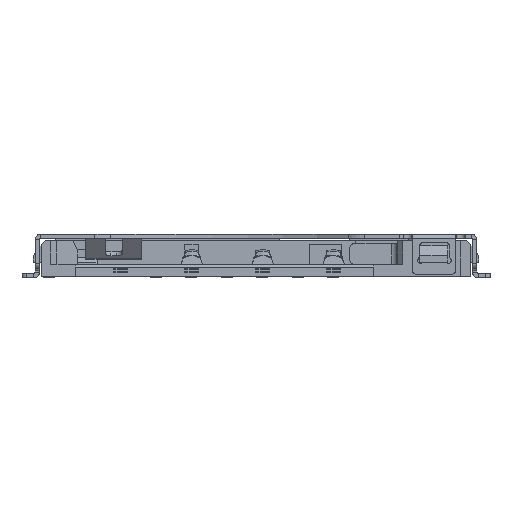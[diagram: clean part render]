
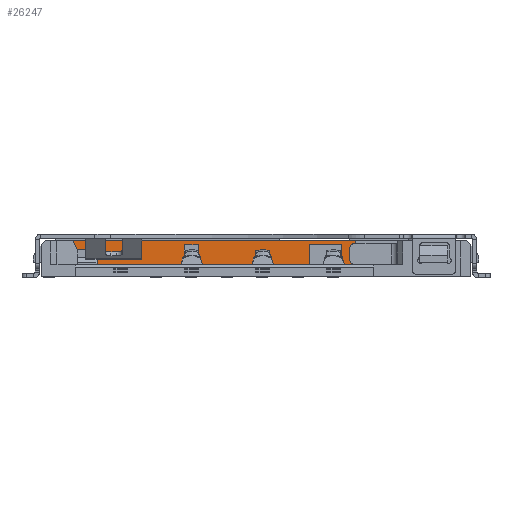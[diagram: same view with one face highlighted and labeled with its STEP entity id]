
A CAD part, front view. The second image highlights one B-rep face of the part: STEP entity #26247.
In plain terms, the highlighted planar face has unit normal (0, -1, 0) as drawn and (0, 0, 1) by its records, which use the part's own axes.
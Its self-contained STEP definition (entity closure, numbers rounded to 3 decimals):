
#23068 = VERTEX_POINT('',#23069);
#23069 = CARTESIAN_POINT('',(1.765,0.3,-7.16));
#23075 = EDGE_CURVE('',#23076,#23068,#23078,.T.);
#23076 = VERTEX_POINT('',#23077);
#23077 = CARTESIAN_POINT('',(-2.22,0.3,-7.16));
#23078 = LINE('',#23079,#23080);
#23079 = CARTESIAN_POINT('',(-2.22,0.3,-7.16));
#23080 = VECTOR('',#23081,1.);
#23081 = DIRECTION('',(1.,0.,0.));
#23100 = VERTEX_POINT('',#23101);
#23101 = CARTESIAN_POINT('',(-2.72,0.3,-7.16));
#23107 = EDGE_CURVE('',#23108,#23100,#23110,.T.);
#23108 = VERTEX_POINT('',#23109);
#23109 = CARTESIAN_POINT('',(-6.55,0.3,-7.16));
#23110 = LINE('',#23111,#23112);
#23111 = CARTESIAN_POINT('',(-6.55,0.3,-7.16));
#23112 = VECTOR('',#23113,1.);
#23113 = DIRECTION('',(1.,0.,0.));
#24307 = VERTEX_POINT('',#24308);
#24308 = CARTESIAN_POINT('',(-6.724,1.15,-7.16));
#24314 = EDGE_CURVE('',#24307,#24315,#24317,.T.);
#24315 = VERTEX_POINT('',#24316);
#24316 = CARTESIAN_POINT('',(3.4,1.15,-7.16));
#24317 = LINE('',#24318,#24319);
#24318 = CARTESIAN_POINT('',(-6.724,1.15,-7.16));
#24319 = VECTOR('',#24320,1.);
#24320 = DIRECTION('',(1.,0.,0.));
#25840 = VERTEX_POINT('',#25841);
#25841 = CARTESIAN_POINT('',(3.4,0.25,-7.16));
#25847 = EDGE_CURVE('',#25840,#25848,#25850,.T.);
#25848 = VERTEX_POINT('',#25849);
#25849 = CARTESIAN_POINT('',(2.9,0.25,-7.16));
#25850 = LINE('',#25851,#25852);
#25851 = CARTESIAN_POINT('',(3.4,0.25,-7.16));
#25852 = VECTOR('',#25853,1.);
#25853 = DIRECTION('',(-1.,0.,0.));
#25942 = EDGE_CURVE('',#25943,#25848,#25945,.T.);
#25943 = VERTEX_POINT('',#25944);
#25944 = CARTESIAN_POINT('',(2.9,1.,-7.16));
#25945 = LINE('',#25946,#25947);
#25946 = CARTESIAN_POINT('',(2.9,1.,-7.16));
#25947 = VECTOR('',#25948,1.);
#25948 = DIRECTION('',(0.,-1.,0.));
#26032 = VERTEX_POINT('',#26033);
#26033 = CARTESIAN_POINT('',(1.765,1.,-7.16));
#26039 = EDGE_CURVE('',#23068,#26032,#26040,.T.);
#26040 = LINE('',#26041,#26042);
#26041 = CARTESIAN_POINT('',(1.765,0.3,-7.16));
#26042 = VECTOR('',#26043,1.);
#26043 = DIRECTION('',(0.,1.,0.));
#26196 = EDGE_CURVE('',#25943,#26032,#26197,.T.);
#26197 = LINE('',#26198,#26199);
#26198 = CARTESIAN_POINT('',(2.9,1.,-7.16));
#26199 = VECTOR('',#26200,1.);
#26200 = DIRECTION('',(-1.,0.,0.));
#26247 = ADVANCED_FACE('',(#26248),#26299,.T.);
#26248 = FACE_BOUND('',#26249,.T.);
#26249 = EDGE_LOOP('',(#26250,#26251,#26259,#26265,#26266,#26274,#26282,
    #26288,#26289,#26290,#26291,#26292,#26293));
#26250 = ORIENTED_EDGE('',*,*,#24314,.F.);
#26251 = ORIENTED_EDGE('',*,*,#26252,.F.);
#26252 = EDGE_CURVE('',#26253,#24307,#26255,.T.);
#26253 = VERTEX_POINT('',#26254);
#26254 = CARTESIAN_POINT('',(-6.55,0.82,-7.16));
#26255 = LINE('',#26256,#26257);
#26256 = CARTESIAN_POINT('',(-6.55,0.82,-7.16));
#26257 = VECTOR('',#26258,1.);
#26258 = DIRECTION('',(-0.466,0.885,0.));
#26259 = ORIENTED_EDGE('',*,*,#26260,.T.);
#26260 = EDGE_CURVE('',#26253,#23108,#26261,.T.);
#26261 = LINE('',#26262,#26263);
#26262 = CARTESIAN_POINT('',(-6.55,0.82,-7.16));
#26263 = VECTOR('',#26264,1.);
#26264 = DIRECTION('',(0.,-1.,0.));
#26265 = ORIENTED_EDGE('',*,*,#23107,.T.);
#26266 = ORIENTED_EDGE('',*,*,#26267,.T.);
#26267 = EDGE_CURVE('',#23100,#26268,#26270,.T.);
#26268 = VERTEX_POINT('',#26269);
#26269 = CARTESIAN_POINT('',(-2.72,1.,-7.16));
#26270 = LINE('',#26271,#26272);
#26271 = CARTESIAN_POINT('',(-2.72,0.3,-7.16));
#26272 = VECTOR('',#26273,1.);
#26273 = DIRECTION('',(0.,1.,0.));
#26274 = ORIENTED_EDGE('',*,*,#26275,.T.);
#26275 = EDGE_CURVE('',#26268,#26276,#26278,.T.);
#26276 = VERTEX_POINT('',#26277);
#26277 = CARTESIAN_POINT('',(-2.22,1.,-7.16));
#26278 = LINE('',#26279,#26280);
#26279 = CARTESIAN_POINT('',(-2.72,1.,-7.16));
#26280 = VECTOR('',#26281,1.);
#26281 = DIRECTION('',(1.,0.,0.));
#26282 = ORIENTED_EDGE('',*,*,#26283,.F.);
#26283 = EDGE_CURVE('',#23076,#26276,#26284,.T.);
#26284 = LINE('',#26285,#26286);
#26285 = CARTESIAN_POINT('',(-2.22,0.3,-7.16));
#26286 = VECTOR('',#26287,1.);
#26287 = DIRECTION('',(0.,1.,0.));
#26288 = ORIENTED_EDGE('',*,*,#23075,.T.);
#26289 = ORIENTED_EDGE('',*,*,#26039,.T.);
#26290 = ORIENTED_EDGE('',*,*,#26196,.F.);
#26291 = ORIENTED_EDGE('',*,*,#25942,.T.);
#26292 = ORIENTED_EDGE('',*,*,#25847,.F.);
#26293 = ORIENTED_EDGE('',*,*,#26294,.F.);
#26294 = EDGE_CURVE('',#24315,#25840,#26295,.T.);
#26295 = LINE('',#26296,#26297);
#26296 = CARTESIAN_POINT('',(3.4,1.15,-7.16));
#26297 = VECTOR('',#26298,1.);
#26298 = DIRECTION('',(0.,-1.,0.));
#26299 = PLANE('',#26300);
#26300 = AXIS2_PLACEMENT_3D('',#26301,#26302,#26303);
#26301 = CARTESIAN_POINT('',(-7.25,0.3,-7.16));
#26302 = DIRECTION('',(0.,0.,1.));
#26303 = DIRECTION('',(1.,0.,-0.));
